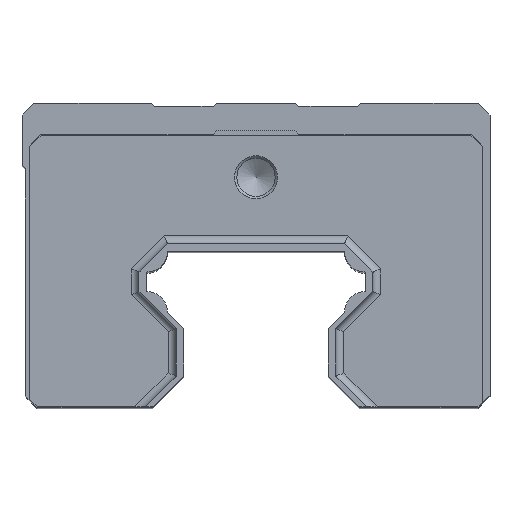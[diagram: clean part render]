
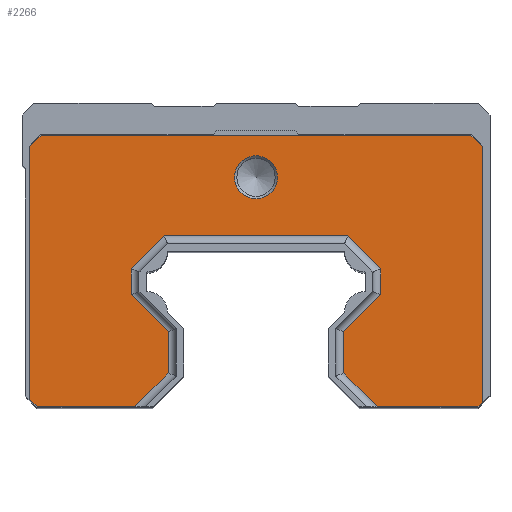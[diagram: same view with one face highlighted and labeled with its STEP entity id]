
A CAD part, top view. The second image highlights one B-rep face of the part: STEP entity #2266.
In plain terms, the highlighted planar face has unit normal (0, 0, 1).
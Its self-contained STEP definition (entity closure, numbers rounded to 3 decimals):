
#39=FACE_BOUND('',#342,.T.);
#45=PLANE('',#2410);
#224=FACE_OUTER_BOUND('',#341,.T.);
#341=EDGE_LOOP('',(#1630,#1631,#1632,#1633,#1634,#1635,#1636,#1637,#1638,
#1639,#1640,#1641,#1642,#1643,#1644,#1645,#1646,#1647,#1648,#1649));
#342=EDGE_LOOP('',(#1650));
#481=LINE('',#3258,#755);
#482=LINE('',#3260,#756);
#483=LINE('',#3262,#757);
#484=LINE('',#3264,#758);
#485=LINE('',#3266,#759);
#486=LINE('',#3268,#760);
#487=LINE('',#3270,#761);
#488=LINE('',#3272,#762);
#489=LINE('',#3274,#763);
#490=LINE('',#3276,#764);
#491=LINE('',#3278,#765);
#492=LINE('',#3280,#766);
#493=LINE('',#3282,#767);
#494=LINE('',#3284,#768);
#495=LINE('',#3286,#769);
#496=LINE('',#3288,#770);
#497=LINE('',#3290,#771);
#498=LINE('',#3292,#772);
#499=LINE('',#3294,#773);
#500=LINE('',#3295,#774);
#755=VECTOR('',#2623,10.);
#756=VECTOR('',#2624,10.);
#757=VECTOR('',#2625,10.);
#758=VECTOR('',#2626,10.);
#759=VECTOR('',#2627,10.);
#760=VECTOR('',#2628,10.);
#761=VECTOR('',#2629,10.);
#762=VECTOR('',#2630,10.);
#763=VECTOR('',#2631,10.);
#764=VECTOR('',#2632,10.);
#765=VECTOR('',#2633,10.);
#766=VECTOR('',#2634,10.);
#767=VECTOR('',#2635,10.);
#768=VECTOR('',#2636,10.);
#769=VECTOR('',#2637,10.);
#770=VECTOR('',#2638,10.);
#771=VECTOR('',#2639,10.);
#772=VECTOR('',#2640,10.);
#773=VECTOR('',#2641,10.);
#774=VECTOR('',#2642,10.);
#1009=CIRCLE('',#2405,2.759);
#1061=VERTEX_POINT('',#3244);
#1065=VERTEX_POINT('',#3256);
#1066=VERTEX_POINT('',#3257);
#1067=VERTEX_POINT('',#3259);
#1068=VERTEX_POINT('',#3261);
#1069=VERTEX_POINT('',#3263);
#1070=VERTEX_POINT('',#3265);
#1071=VERTEX_POINT('',#3267);
#1072=VERTEX_POINT('',#3269);
#1073=VERTEX_POINT('',#3271);
#1074=VERTEX_POINT('',#3273);
#1075=VERTEX_POINT('',#3275);
#1076=VERTEX_POINT('',#3277);
#1077=VERTEX_POINT('',#3279);
#1078=VERTEX_POINT('',#3281);
#1079=VERTEX_POINT('',#3283);
#1080=VERTEX_POINT('',#3285);
#1081=VERTEX_POINT('',#3287);
#1082=VERTEX_POINT('',#3289);
#1083=VERTEX_POINT('',#3291);
#1084=VERTEX_POINT('',#3293);
#1285=EDGE_CURVE('',#1061,#1061,#1009,.T.);
#1291=EDGE_CURVE('',#1065,#1066,#481,.T.);
#1292=EDGE_CURVE('',#1065,#1067,#482,.T.);
#1293=EDGE_CURVE('',#1067,#1068,#483,.T.);
#1294=EDGE_CURVE('',#1068,#1069,#484,.T.);
#1295=EDGE_CURVE('',#1069,#1070,#485,.T.);
#1296=EDGE_CURVE('',#1070,#1071,#486,.T.);
#1297=EDGE_CURVE('',#1071,#1072,#487,.T.);
#1298=EDGE_CURVE('',#1072,#1073,#488,.T.);
#1299=EDGE_CURVE('',#1073,#1074,#489,.T.);
#1300=EDGE_CURVE('',#1074,#1075,#490,.T.);
#1301=EDGE_CURVE('',#1076,#1075,#491,.T.);
#1302=EDGE_CURVE('',#1077,#1076,#492,.T.);
#1303=EDGE_CURVE('',#1078,#1077,#493,.T.);
#1304=EDGE_CURVE('',#1079,#1078,#494,.T.);
#1305=EDGE_CURVE('',#1080,#1079,#495,.T.);
#1306=EDGE_CURVE('',#1081,#1080,#496,.T.);
#1307=EDGE_CURVE('',#1082,#1081,#497,.T.);
#1308=EDGE_CURVE('',#1083,#1082,#498,.T.);
#1309=EDGE_CURVE('',#1084,#1083,#499,.T.);
#1310=EDGE_CURVE('',#1066,#1084,#500,.T.);
#1630=ORIENTED_EDGE('',*,*,#1291,.F.);
#1631=ORIENTED_EDGE('',*,*,#1292,.T.);
#1632=ORIENTED_EDGE('',*,*,#1293,.T.);
#1633=ORIENTED_EDGE('',*,*,#1294,.T.);
#1634=ORIENTED_EDGE('',*,*,#1295,.T.);
#1635=ORIENTED_EDGE('',*,*,#1296,.T.);
#1636=ORIENTED_EDGE('',*,*,#1297,.T.);
#1637=ORIENTED_EDGE('',*,*,#1298,.T.);
#1638=ORIENTED_EDGE('',*,*,#1299,.T.);
#1639=ORIENTED_EDGE('',*,*,#1300,.T.);
#1640=ORIENTED_EDGE('',*,*,#1301,.F.);
#1641=ORIENTED_EDGE('',*,*,#1302,.F.);
#1642=ORIENTED_EDGE('',*,*,#1303,.F.);
#1643=ORIENTED_EDGE('',*,*,#1304,.F.);
#1644=ORIENTED_EDGE('',*,*,#1305,.F.);
#1645=ORIENTED_EDGE('',*,*,#1306,.F.);
#1646=ORIENTED_EDGE('',*,*,#1307,.F.);
#1647=ORIENTED_EDGE('',*,*,#1308,.F.);
#1648=ORIENTED_EDGE('',*,*,#1309,.F.);
#1649=ORIENTED_EDGE('',*,*,#1310,.F.);
#1650=ORIENTED_EDGE('',*,*,#1285,.F.);
#2266=ADVANCED_FACE('',(#224,#39),#45,.T.);
#2405=AXIS2_PLACEMENT_3D('',#3245,#2609,#2610);
#2410=AXIS2_PLACEMENT_3D('',#3255,#2621,#2622);
#2609=DIRECTION('center_axis',(0.,0.,1.));
#2610=DIRECTION('ref_axis',(-1.,0.,0.));
#2621=DIRECTION('center_axis',(0.,0.,1.));
#2622=DIRECTION('ref_axis',(1.,0.,0.));
#2623=DIRECTION('',(-0.707,0.707,0.));
#2624=DIRECTION('',(1.,0.,0.));
#2625=DIRECTION('',(0.707,0.707,0.));
#2626=DIRECTION('',(0.,1.,0.));
#2627=DIRECTION('',(-0.707,0.707,0.));
#2628=DIRECTION('',(-1.,0.,0.));
#2629=DIRECTION('',(-0.707,-0.707,0.));
#2630=DIRECTION('',(0.,-1.,0.));
#2631=DIRECTION('',(0.707,-0.707,0.));
#2632=DIRECTION('',(1.,0.,0.));
#2633=DIRECTION('',(-0.707,-0.707,0.));
#2634=DIRECTION('',(0.,-1.,0.));
#2635=DIRECTION('',(0.707,-0.707,0.));
#2636=DIRECTION('',(0.,-1.,0.));
#2637=DIRECTION('',(-0.707,-0.707,0.));
#2638=DIRECTION('',(-1.,0.,0.));
#2639=DIRECTION('',(-0.707,0.707,0.));
#2640=DIRECTION('',(0.,1.,0.));
#2641=DIRECTION('',(0.707,0.707,0.));
#2642=DIRECTION('',(0.,1.,0.));
#3244=CARTESIAN_POINT('',(2.759,35.5,48.));
#3245=CARTESIAN_POINT('Origin',(0.,35.5,48.));
#3255=CARTESIAN_POINT('Origin',(0.,23.5,48.));
#3256=CARTESIAN_POINT('',(15.564,6.1,48.));
#3257=CARTESIAN_POINT('',(11.25,10.414,48.));
#3258=CARTESIAN_POINT('',(5.02,16.645,48.));
#3259=CARTESIAN_POINT('',(28.459,6.1,48.));
#3260=CARTESIAN_POINT('',(13.15,6.1,48.));
#3261=CARTESIAN_POINT('',(29.,6.641,48.));
#3262=CARTESIAN_POINT('',(28.459,6.1,48.));
#3263=CARTESIAN_POINT('',(29.,39.459,48.));
#3264=CARTESIAN_POINT('',(29.,6.641,48.));
#3265=CARTESIAN_POINT('',(27.559,40.9,48.));
#3266=CARTESIAN_POINT('',(29.,39.459,48.));
#3267=CARTESIAN_POINT('',(-27.559,40.9,48.));
#3268=CARTESIAN_POINT('',(27.559,40.9,48.));
#3269=CARTESIAN_POINT('',(-29.,39.459,48.));
#3270=CARTESIAN_POINT('',(-27.559,40.9,48.));
#3271=CARTESIAN_POINT('',(-29.,7.041,48.));
#3272=CARTESIAN_POINT('',(-29.,39.459,48.));
#3273=CARTESIAN_POINT('',(-28.059,6.1,48.));
#3274=CARTESIAN_POINT('',(-29.,7.041,48.));
#3275=CARTESIAN_POINT('',(-15.564,6.1,48.));
#3276=CARTESIAN_POINT('',(-28.059,6.1,48.));
#3277=CARTESIAN_POINT('',(-11.25,10.414,48.));
#3278=CARTESIAN_POINT('',(-6.97,14.695,48.));
#3279=CARTESIAN_POINT('',(-11.25,15.686,48.));
#3280=CARTESIAN_POINT('',(-11.25,16.75,48.));
#3281=CARTESIAN_POINT('',(-16.,20.436,48.));
#3282=CARTESIAN_POINT('',(-10.245,14.68,48.));
#3283=CARTESIAN_POINT('',(-16.,23.764,48.));
#3284=CARTESIAN_POINT('',(-16.,22.175,48.));
#3285=CARTESIAN_POINT('',(-11.764,28.,48.));
#3286=CARTESIAN_POINT('',(-11.92,27.845,48.));
#3287=CARTESIAN_POINT('',(11.764,28.,48.));
#3288=CARTESIAN_POINT('',(-5.675,28.,48.));
#3289=CARTESIAN_POINT('',(16.,23.764,48.));
#3290=CARTESIAN_POINT('',(10.095,29.67,48.));
#3291=CARTESIAN_POINT('',(16.,20.436,48.));
#3292=CARTESIAN_POINT('',(16.,23.425,48.));
#3293=CARTESIAN_POINT('',(11.25,15.686,48.));
#3294=CARTESIAN_POINT('',(12.62,17.055,48.));
#3295=CARTESIAN_POINT('',(11.25,19.8,48.));
